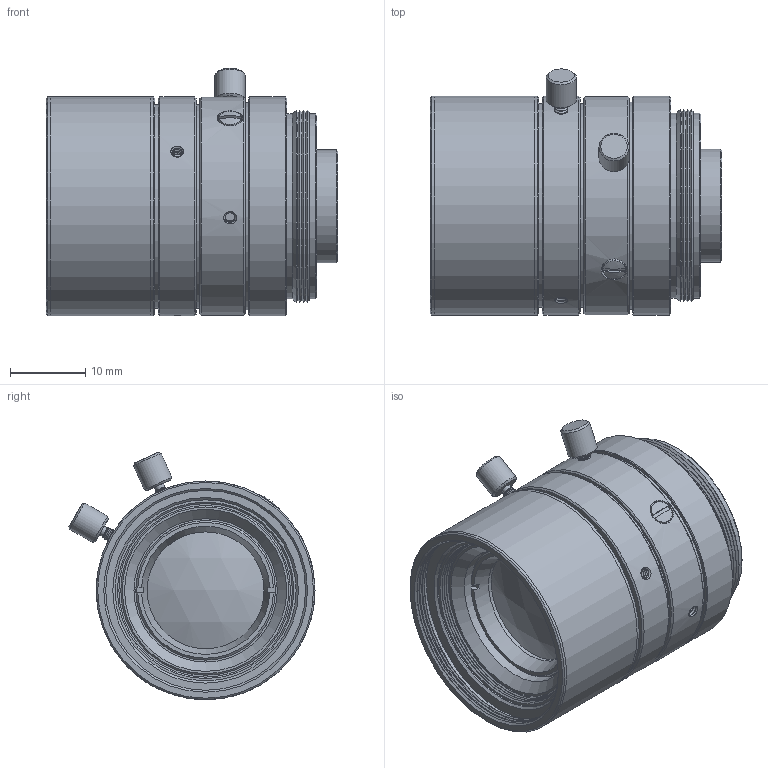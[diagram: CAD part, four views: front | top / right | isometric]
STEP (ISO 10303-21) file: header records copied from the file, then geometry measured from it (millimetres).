
FILE_DESCRIPTION(/* description */ ('Unknown'),/* implementation_level */ '2;1');
FILE_NAME(/* name */ 'M2528-MPW3',/* time_stamp */ '2021-03-22T16:17:14+09:00',/* author */ ('Unknown'),/* organization */ ('Unknown'),/* preprocessor_version */ 'ST-DEVELOPER v16.7',/* originating_system */ 'DEX',/* authorisation */ $);
FILE_SCHEMA (('AUTOMOTIVE_DESIGN {1 0 10303 214 3 1 1}'));
Length unit declared in the file: millimetre
Products named in the file (3): M2528-MPW3 Infinity; M2528-MPW3 Infinity_0; M2528-MPW3 Mechanical Limit_0
Assembly tree (2 placements, depth 2):
  M2528-MPW3 Infinity
    M2528-MPW3 Infinity_0
    M2528-MPW3 Mechanical Limit_0
Bounding box: 38.66 x 32.61 x 32.8 mm (x, y, z)
Volume: 24949.8 mm3; surface area: 44880.5 mm2
Topology: 40 solids, 40 shells, 1308 faces, 2686 edges, 1566 vertices
Faces by surface type: cone 870, plane 234, cylinder 192, sphere 12
Full cylindrical faces by diameter (mm): 1 x2, 1.3 x4, 1.5 x8, 2 x12, 3 x2, 3.4 x2, 4 x4, 5 x2, 9.5 x2, 9.805 x2, 10.5 x2, 11 x2, 11.5 x2, 12 x4, 13 x2, 14 x4, 15 x2, 15.5 x2, 16 x4, 17 x4, 19 x12, 19.5 x4, 20 x2, 20.5 x2, 21 x2, 21.5 x4, 22 x2, 22.5 x6, 23 x2, 23.6 x2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
Entity records: 29921 total; most frequent: CARTESIAN_POINT 5573, DIRECTION 5402, ORIENTED_EDGE 3484, AXIS2_PLACEMENT_3D 2599, EDGE_LOOP 2394, FACE_BOUND 2394, EDGE_CURVE 1742, VERTEX_POINT 1520
